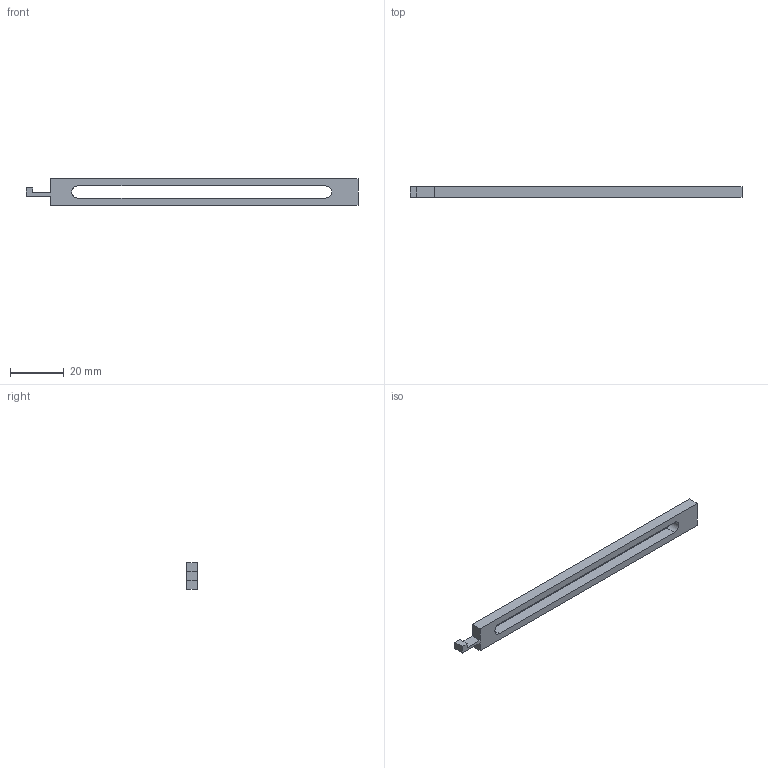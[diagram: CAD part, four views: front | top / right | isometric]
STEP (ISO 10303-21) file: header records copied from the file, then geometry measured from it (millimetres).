
FILE_DESCRIPTION(('Open CASCADE Model'),'2;1');
FILE_NAME('Open CASCADE Shape Model','2026-11-08T06:43:58',('Author'),( 'Open CASCADE'),'Open CASCADE STEP processor 7.8','Open CASCADE 7.8' ,'Unknown');
FILE_SCHEMA(('AUTOMOTIVE_DESIGN { 1 0 10303 214 1 1 1 1 }'));
Length unit declared in the file: millimetre
Products named in the file (1): Open CASCADE STEP translator 7.8 8
Bounding box: 123.25 x 4 x 10 mm (x, y, z)
Volume: 2902.8 mm3; surface area: 3324.3 mm2
Topology: 1 solids, 1 shells, 16 faces, 42 edges, 28 vertices
Faces by surface type: plane 14, cylinder 2
Entity records: 1038 total; most frequent: CARTESIAN_POINT 183, DIRECTION 152, LINE 106, VECTOR 106, ORIENTED_EDGE 84, PCURVE 84, DEFINITIONAL_REPRESENTATION 84, EDGE_CURVE 42
